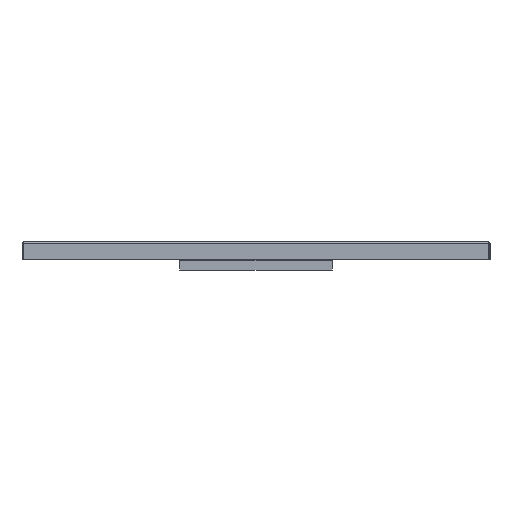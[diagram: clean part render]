
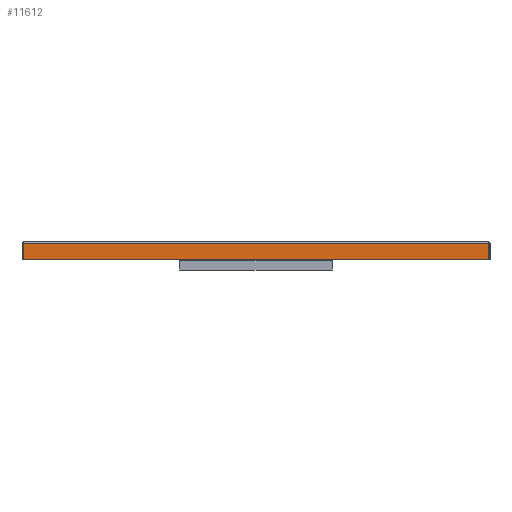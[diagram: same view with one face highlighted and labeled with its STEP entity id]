
A CAD part, left-side view. The second image highlights one B-rep face of the part: STEP entity #11612.
In plain terms, the highlighted planar face has unit normal (-1, 0, 0).
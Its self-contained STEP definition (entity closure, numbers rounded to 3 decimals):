
#414 = VERTEX_POINT ( 'NONE', #7838 ) ;
#539 = LINE ( 'NONE', #1366, #10683 ) ;
#668 = CARTESIAN_POINT ( 'NONE',  ( -84.056, 111.138, -2.045 ) ) ;
#723 = CARTESIAN_POINT ( 'NONE',  ( -84.056, 866.675, -2.045 ) ) ;
#1331 = CARTESIAN_POINT ( 'NONE',  ( -84.056, 886.93, -2.005 ) ) ;
#1366 = CARTESIAN_POINT ( 'NONE',  ( -84.056, 90.93, -2.005 ) ) ;
#1443 = CARTESIAN_POINT ( 'NONE',  ( -84.056, 309.945, -2.074 ) ) ;
#2093 = EDGE_CURVE ( 'NONE', #10994, #414, #539, .T. ) ;
#2206 = ORIENTED_EDGE ( 'NONE', *, *, #2093, .F. ) ;
#2460 = CARTESIAN_POINT ( 'NONE',  ( -84.056, 853.019, -2.071 ) ) ;
#2515 = CARTESIAN_POINT ( 'NONE',  ( -84.056, 886.93, -2.005 ) ) ;
#2827 = VECTOR ( 'NONE', #9092, 1000. ) ;
#3217 = LINE ( 'NONE', #10512, #6875 ) ;
#3408 = CARTESIAN_POINT ( 'NONE',  ( -84.056, 163.629, -2.087 ) ) ;
#3515 = CARTESIAN_POINT ( 'NONE',  ( -84.056, 92.283, -2.008 ) ) ;
#4185 = DIRECTION ( 'NONE',  ( 0., 0., -1. ) ) ;
#4315 = CARTESIAN_POINT ( 'NONE',  ( -84.056, 885.574, -2.008 ) ) ;
#4366 = CARTESIAN_POINT ( 'NONE',  ( -84.056, 90.93, -2.005 ) ) ;
#4419 = CARTESIAN_POINT ( 'NONE',  ( -84.056, 808.508, -2.085 ) ) ;
#5093 = CARTESIAN_POINT ( 'NONE',  ( -84.056, 125.27, -2.072 ) ) ;
#5263 = CARTESIAN_POINT ( 'NONE',  ( -84.056, 764.503, -2.079 ) ) ;
#5319 = CARTESIAN_POINT ( 'NONE',  ( -84.056, 550.172, -2.072 ) ) ;
#5977 = DIRECTION ( 'NONE',  ( 0., 0., 1. ) ) ;
#6062 = CARTESIAN_POINT ( 'NONE',  ( -84.056, 218.139, -2.078 ) ) ;
#6177 = CARTESIAN_POINT ( 'NONE',  ( -84.056, 101.044, -2.025 ) ) ;
#6227 = CARTESIAN_POINT ( 'NONE',  ( -84.056, 731.12, -2.076 ) ) ;
#6258 = DIRECTION ( 'NONE',  ( 0., 1., 0. ) ) ;
#6875 = VECTOR ( 'NONE', #5977, 1000. ) ;
#7052 = PLANE ( 'NONE',  #10853 ) ;
#7072 = CARTESIAN_POINT ( 'NONE',  ( -84.056, 882.194, -2.013 ) ) ;
#7126 = CARTESIAN_POINT ( 'NONE',  ( -84.056, 876.791, -2.025 ) ) ;
#7660 = EDGE_CURVE ( 'NONE', #11711, #10183, #3217, .T. ) ;
#7838 = CARTESIAN_POINT ( 'NONE',  ( -84.056, 90.93, -30. ) ) ;
#7979 = CARTESIAN_POINT ( 'NONE',  ( -84.056, 825.199, -2.089 ) ) ;
#8029 = B_SPLINE_CURVE_WITH_KNOTS ( 'NONE', 3,
 ( #2515, #4315, #7072, #7126, #723, #2460, #8877, #7979, #4419, #11567, #5263, #6227, #8984, #5319, #11620, #1443, #10650, #6062, #11509, #3408, #8033, #5093, #668, #6177, #8931, #3515, #4366 ),
 .UNSPECIFIED., .F., .F.,
 ( 4, 1, 1, 1, 1, 1, 1, 1, 1, 1, 1, 1, 1, 1, 1, 1, 1, 1, 1, 1, 1, 1, 1, 1, 4 ),
 ( 2., 6.07, 12.139, 18.209, 36.418, 53.109, 62.214, 75.87, 103.184, 121.393, 148.706, 203.333, 312.587, 500.357, 606.187, 630.414, 678.867, 703.094, 727.32, 745.49, 763.66, 781.83, 787.887, 793.943, 798. ),
 .UNSPECIFIED. ) ;
#8033 = CARTESIAN_POINT ( 'NONE',  ( -84.056, 143.44, -2.088 ) ) ;
#8541 = EDGE_CURVE ( 'NONE', #10183, #10994, #8029, .T. ) ;
#8673 = ORIENTED_EDGE ( 'NONE', *, *, #7660, .F. ) ;
#8875 = CARTESIAN_POINT ( 'NONE',  ( -84.056, 90.93, -30. ) ) ;
#8877 = CARTESIAN_POINT ( 'NONE',  ( -84.056, 838.35, -2.084 ) ) ;
#8930 = LINE ( 'NONE', #8875, #2827 ) ;
#8931 = CARTESIAN_POINT ( 'NONE',  ( -84.056, 95.654, -2.013 ) ) ;
#8984 = CARTESIAN_POINT ( 'NONE',  ( -84.056, 667.389, -2.074 ) ) ;
#9092 = DIRECTION ( 'NONE',  ( 0., 1., 0. ) ) ;
#9259 = ORIENTED_EDGE ( 'NONE', *, *, #10653, .F. ) ;
#9537 = CARTESIAN_POINT ( 'NONE',  ( -84.056, 886.93, -30. ) ) ;
#9777 = ORIENTED_EDGE ( 'NONE', *, *, #8541, .F. ) ;
#10183 = VERTEX_POINT ( 'NONE', #1331 ) ;
#10512 = CARTESIAN_POINT ( 'NONE',  ( -84.056, 886.93, -30. ) ) ;
#10650 = CARTESIAN_POINT ( 'NONE',  ( -84.056, 250.441, -2.076 ) ) ;
#10653 = EDGE_CURVE ( 'NONE', #414, #11711, #8930, .T. ) ;
#10683 = VECTOR ( 'NONE', #4185, 1000. ) ;
#10794 = DIRECTION ( 'NONE',  ( 1., 0., 0. ) ) ;
#10853 = AXIS2_PLACEMENT_3D ( 'NONE', #11651, #10794, #6258 ) ;
#10994 = VERTEX_POINT ( 'NONE', #11076 ) ;
#11041 = EDGE_LOOP ( 'NONE', ( #2206, #9777, #8673, #9259 ) ) ;
#11076 = CARTESIAN_POINT ( 'NONE',  ( -84.056, 90.93, -2.005 ) ) ;
#11509 = CARTESIAN_POINT ( 'NONE',  ( -84.056, 185.837, -2.082 ) ) ;
#11567 = CARTESIAN_POINT ( 'NONE',  ( -84.056, 788.782, -2.082 ) ) ;
#11596 = FACE_OUTER_BOUND ( 'NONE', #11041, .T. ) ;
#11612 = ADVANCED_FACE ( 'NONE', ( #11596 ), #7052, .F. ) ;
#11620 = CARTESIAN_POINT ( 'NONE',  ( -84.056, 415.887, -2.072 ) ) ;
#11651 = CARTESIAN_POINT ( 'NONE',  ( -84.056, 888.93, 0. ) ) ;
#11711 = VERTEX_POINT ( 'NONE', #9537 ) ;
